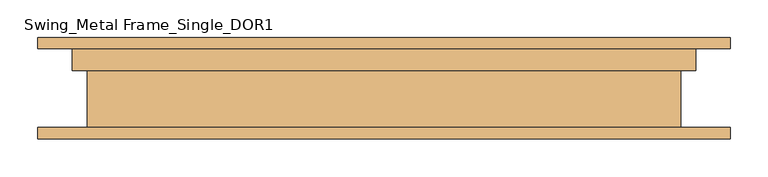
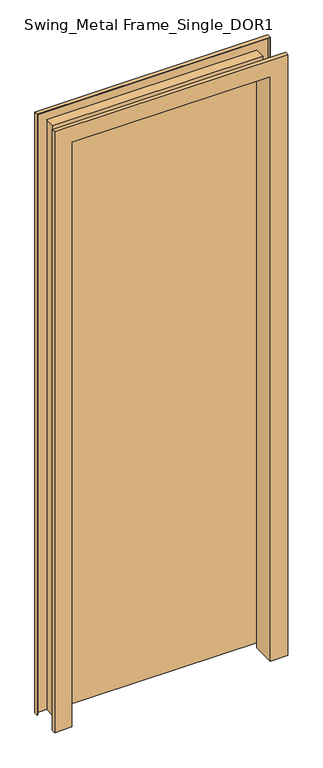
"""IFC4 building model written with IfcOpenShell, lengths in millimetres: door geometry, Swing_Metal Frame_Single_DOR1 : 2040h x 820 (2110x920 STUD)."""

import ifcopenshell
import ifcopenshell.guid

model = None  # the IFC model being written
_history = None  # IfcOwnerHistory: only IFC2X3 demands one
_inside = {}  # id of a spatial element -> (the spatial element, [elements in it])
_under = {}  # id of a project, library or spatial element -> (it, [spatial elements below it])
_declared = {}  # id of a project -> (the project, [libraries it declares])
_typed = {}  # id of a type object -> (the type object, [elements of that type])
_made_of = {}  # id of a material, layer set ... -> (it, [elements and type objects made of it])


def new_model(schema):
    """Start an empty IFC model of exactly this schema.

    Asked for "IFC4X3", IfcOpenShell would pick the latest addendum, in which some entities
    have other attributes; the version numbers below select the first issue.
    IFC2X3 requires an IfcOwnerHistory on every rooted entity: one is made here for all.
    """
    global model, _history
    if schema == "IFC4X3":
        model = ifcopenshell.file(schema_version=(4, 3, 0, 0))
    else:
        model = ifcopenshell.file(schema=schema)
    _inside.clear()
    _under.clear()
    _declared.clear()
    _typed.clear()
    _made_of.clear()
    _history = None
    if model.schema == "IFC2X3":
        org = make("IfcOrganization", Name="unknown")
        user = make(
            "IfcPersonAndOrganization",
            ThePerson=make("IfcPerson", FamilyName="unknown"),
            TheOrganization=org,
        )
        app = make(
            "IfcApplication",
            ApplicationDeveloper=org,
            Version="unknown",
            ApplicationFullName="unknown",
            ApplicationIdentifier="unknown",
        )
        _history = make(
            "IfcOwnerHistory",
            OwningUser=user,
            OwningApplication=app,
            ChangeAction="ADDED",
            CreationDate=0,
        )
    return model


def make(cls, **values):
    """One entity of the class cls with the attributes given. An attribute that is None is left unset."""
    return model.create_entity(
        cls, **{name: value for name, value in values.items() if value is not None}
    )


def rooted(cls, **values):
    """An entity with a GlobalId (a new one), such as an element, a storey or a relation."""
    return make(cls, GlobalId=ifcopenshell.guid.new(), OwnerHistory=_history, **values)


def si_unit(unit_type, name, prefix=None):
    """IfcSIUnit, for example si_unit("LENGTHUNIT", "METRE", prefix="MILLI")."""
    return make("IfcSIUnit", UnitType=unit_type, Prefix=prefix, Name=name)


def assignment(units):
    """IfcUnitAssignment: the units of a project."""
    return None if units is None else make("IfcUnitAssignment", Units=units)


def point(xyz):
    """IfcCartesianPoint."""
    return None if xyz is None else make("IfcCartesianPoint", Coordinates=xyz)


def direction(xyz):
    """IfcDirection."""
    return None if xyz is None else make("IfcDirection", DirectionRatios=xyz)


def frame(location, z_axis=None, x_axis=None):
    """IfcAxis2Placement3D, a coordinate frame: its origin and axes. An axis left out is left unset."""
    return make(
        "IfcAxis2Placement3D",
        Location=point(location),
        Axis=direction(z_axis),
        RefDirection=direction(x_axis),
    )


def origin():
    """The frame at (0, 0, 0) with its axes left unset."""
    return frame((0.0, 0.0, 0.0))


def place(relative_to, where):
    """IfcLocalPlacement: puts the frame where relative to a parent placement (None: the world)."""
    return make(
        "IfcLocalPlacement", PlacementRelTo=relative_to, RelativePlacement=where
    )


def context(
    kind, dimensions, precision=None, world=None, true_north=None, identifier=None
):
    """IfcGeometricRepresentationContext, for example the 3D "Model" context."""
    return make(
        "IfcGeometricRepresentationContext",
        ContextIdentifier=identifier,
        ContextType=kind,
        CoordinateSpaceDimension=dimensions,
        Precision=precision,
        WorldCoordinateSystem=world,
        TrueNorth=true_north,
    )


def project(units=None, contexts=None):
    """IfcProject with its units and contexts."""
    return rooted(
        "IfcProject",
        Name="project",
        RepresentationContexts=contexts,
        UnitsInContext=assignment(units),
    )


def spatial(cls, under=None, at=None, **own):
    """A site, building, storey or space (cls), placed at a placement, below another one or the project."""
    s = rooted(cls, ObjectPlacement=at, **own)
    if under is not None:
        _under.setdefault(under.id(), (under, []))[1].append(s)
    return s


def polyline(points):
    """IfcPolyline through the points."""
    return make("IfcPolyline", Points=[point(p) for p in points])


def outline(outer, holes=None, kind="AREA"):
    """IfcArbitraryClosedProfileDef: a profile drawn as a closed curve; with holes, ...WithVoids."""
    if holes is None:
        return make("IfcArbitraryClosedProfileDef", ProfileType=kind, OuterCurve=outer)
    return make(
        "IfcArbitraryProfileDefWithVoids",
        ProfileType=kind,
        OuterCurve=outer,
        InnerCurves=holes,
    )


def extrude(swept, where, along, depth):
    """IfcExtrudedAreaSolid: the profile swept, set in the frame where, extruded along a direction by depth."""
    return make(
        "IfcExtrudedAreaSolid",
        SweptArea=swept,
        Position=where,
        ExtrudedDirection=direction(along),
        Depth=depth,
    )


def faces_of(points, faces, orient=None, outer=None):
    """IfcFace entities. A face is a list of loops; a loop is a list of indices into points, from 0.

    orient and outer hold one flag for each loop. By default every Orientation is true, the
    first loop of a face is its IfcFaceOuterBound and the others are IfcFaceBound.
    """
    made = []
    for i, loops in enumerate(faces):
        bounds = []
        for j, loop in enumerate(loops):
            is_outer = j == 0 if outer is None else outer[i][j]
            bounds.append(
                make(
                    "IfcFaceOuterBound" if is_outer else "IfcFaceBound",
                    Bound=make("IfcPolyLoop", Polygon=[points[k] for k in loop]),
                    Orientation=True if orient is None else orient[i][j],
                )
            )
        made.append(make("IfcFace", Bounds=bounds))
    return made


def faceted_brep(points, faces, orient=None, outer=None, voids=None):
    """IfcFacetedBrep: a solid bounded by flat faces; with voids (closed shells), ...WithVoids."""
    shared = [point(p) for p in points]
    hull = make("IfcClosedShell", CfsFaces=faces_of(shared, faces, orient, outer))
    if voids is None:
        return make("IfcFacetedBrep", Outer=hull)
    return make(
        "IfcFacetedBrepWithVoids",
        Outer=hull,
        Voids=[
            make(cls, CfsFaces=faces_of(shared, fs, o, b)) for cls, fs, o, b in voids
        ],
    )


def shape(context_of_items, identifier, shape_type, items):
    """IfcShapeRepresentation: the items that make up one representation, for example the "Body"."""
    return make(
        "IfcShapeRepresentation",
        ContextOfItems=context_of_items,
        RepresentationIdentifier=identifier,
        RepresentationType=shape_type,
        Items=items,
    )


def source(mapping_origin, context_of_items, identifier, shape_type, items):
    """IfcRepresentationMap: a shape defined once, which mapped items show again and again."""
    return make(
        "IfcRepresentationMap",
        MappingOrigin=mapping_origin,
        MappedRepresentation=shape(context_of_items, identifier, shape_type, items),
    )


def transform(
    local_origin,
    x_axis=None,
    y_axis=None,
    z_axis=None,
    scale=None,
    scale2=None,
    scale3=None,
    uniform=True,
):
    """IfcCartesianTransformationOperator3D, or its non-uniform kind. x_axis, y_axis, z_axis: its Axis1, 2, 3."""
    if uniform:
        return make(
            "IfcCartesianTransformationOperator3D",
            Axis1=direction(x_axis),
            Axis2=direction(y_axis),
            LocalOrigin=point(local_origin),
            Scale=scale,
            Axis3=direction(z_axis),
        )
    return make(
        "IfcCartesianTransformationOperator3DnonUniform",
        Axis1=direction(x_axis),
        Axis2=direction(y_axis),
        LocalOrigin=point(local_origin),
        Scale=scale,
        Axis3=direction(z_axis),
        Scale2=scale2,
        Scale3=scale3,
    )


def mapped(mapping_source, mapping_target):
    """IfcMappedItem: shows the shape of a source again, moved by a transform."""
    return make(
        "IfcMappedItem", MappingSource=mapping_source, MappingTarget=mapping_target
    )


def made_of(thing, what):
    """Note that an element or type object is made of a material, layer set ...; save() writes the relation."""
    if what is not None:
        _made_of.setdefault(what.id(), (what, []))[1].append(thing)
    return thing


def element(
    cls,
    number,
    at=None,
    inside=None,
    cuts=None,
    type_object=None,
    material=None,
    context=None,
    identifier="Body",
    shape_type=None,
    held_by="IfcProductDefinitionShape",
    body=None,
    shapes=None,
    **own,
):
    """One element of the class cls, such as IfcWall. Its Tag is "e" and its number.

    at: its placement. inside: the storey or other place that contains it. cuts: it is an
    opening in that element (IfcRelVoidsElement). A single representation is given by context,
    identifier, shape_type and body (its items); several are given by shapes. held_by: the class
    of the entity that holds the representations. save() writes the other relations.
    """
    e = rooted(cls, Tag="e%d" % number, ObjectPlacement=at, **own)
    if body is not None:
        shapes = [shape(context, identifier, shape_type, body)]
    if shapes is not None:
        e.Representation = make(held_by, Representations=shapes)
    if inside is not None:
        _inside.setdefault(inside.id(), (inside, []))[1].append(e)
    if cuts is not None:
        rooted(
            "IfcRelVoidsElement", RelatingBuildingElement=cuts, RelatedOpeningElement=e
        )
    if type_object is not None:
        _typed.setdefault(type_object.id(), (type_object, []))[1].append(e)
    return made_of(e, material)


def aggregate(whole, parts):
    """IfcRelAggregates: a whole, such as a stair, and the parts it consists of."""
    return rooted("IfcRelAggregates", RelatingObject=whole, RelatedObjects=parts)


def save(model, path):
    """Write the relations noted so far, then the file.

    IfcRelAggregates (storeys below a building ...), IfcRelContainedInSpatialStructure (elements
    in a storey), IfcRelDefinesByType, IfcRelAssociatesMaterial and IfcRelDeclares: one each for
    every whole, place, type object, material and project.
    """
    for whole, parts in _under.values():
        aggregate(whole, parts)
    for where, things in _inside.values():
        rooted(
            "IfcRelContainedInSpatialStructure",
            RelatedElements=things,
            RelatingStructure=where,
        )
    for kind, things in _typed.values():
        rooted("IfcRelDefinesByType", RelatedObjects=things, RelatingType=kind)
    for what, things in _made_of.values():
        rooted("IfcRelAssociatesMaterial", RelatedObjects=things, RelatingMaterial=what)
    for by, libraries in _declared.values():
        rooted("IfcRelDeclares", RelatingContext=by, RelatedDefinitions=libraries)
    model.write(path)


def swing_metal_frame_single_dor1_9c4c5c1d(model_context):
    return source(origin(), model_context, "Body", "SolidModel", [
        extrude(outline(polyline([(410.0, 67.5), (410.0, 27.5), (-410.0, 27.5), (-410.0, 67.5), (410.0, 67.5)])), frame((0.0, 0.0, 20.0), z_axis=(0.0, 0.0, 1.0), x_axis=(1.0, 0.0, 0.0)), (0.0, 0.0, 1.0), 2440.0),
        faceted_brep([(-460.0, -67.5, 0.0), (-460.0, -52.5, 0.0), (-458.0, -52.5, 0.0), (-458.0, -65.5, 0.0), (-394.0, -65.5, 0.0), (-394.0, 23.5, 0.0), (-414.0, 23.5, 0.0), (-414.0, 65.5, 0.0), (-458.0, 65.5, 0.0), (-458.0, 52.5, 0.0), (-460.0, 52.5, 0.0), (-460.0, 67.5, 0.0), (-412.0, 67.5, 0.0), (-412.0, 25.5, 0.0), (-392.0, 25.5, 0.0), (-392.0, -67.5, 0.0), (-460.0, -67.5, 2510.0), (-460.0, -52.5, 2510.0), (460.0, -52.5, 2510.0), (460.0, -52.5, 0.0), (458.0, -52.5, 0.0), (458.0, -52.5, 2508.0), (-458.0, -52.5, 2508.0), (-458.0, -65.5, 2508.0), (458.0, -65.5, 2508.0), (458.0, -65.5, 0.0), (394.0, -65.5, 0.0), (394.0, -65.5, 2444.0), (-394.0, -65.5, 2444.0), (-394.0, 23.5, 2444.0), (394.0, 23.5, 2444.0), (394.0, 23.5, 0.0), (414.0, 23.5, 0.0), (414.0, 23.5, 2464.0), (-414.0, 23.5, 2464.0), (-414.0, 65.5, 2464.0), (414.0, 65.5, 2464.0), (414.0, 65.5, 0.0), (458.0, 65.5, 0.0), (458.0, 65.5, 2508.0), (-458.0, 65.5, 2508.0), (-458.0, 52.5, 2508.0), (458.0, 52.5, 2508.0), (458.0, 52.5, 0.0), (460.0, 52.5, 0.0), (460.0, 52.5, 2510.0), (-460.0, 52.5, 2510.0), (-460.0, 67.5, 2510.0), (460.0, 67.5, 2510.0), (460.0, 67.5, 0.0), (412.0, 67.5, 0.0), (412.0, 67.5, 2462.0), (-412.0, 67.5, 2462.0), (-412.0, 25.5, 2462.0), (412.0, 25.5, 2462.0), (412.0, 25.5, 0.0), (392.0, 25.5, 0.0), (392.0, 25.5, 2442.0), (-392.0, 25.5, 2442.0), (-392.0, -67.5, 2442.0), (392.0, -67.5, 2442.0), (392.0, -67.5, 0.0), (460.0, -67.5, 0.0), (460.0, -67.5, 2510.0)], [[[0, 1, 2, 3, 4, 5, 6, 7, 8, 9, 10, 11, 12, 13, 14, 15]], [[1, 0, 16, 17]], [[2, 1, 17, 18, 19, 20, 21, 22]], [[3, 2, 22, 23]], [[4, 3, 23, 24, 25, 26, 27, 28]], [[5, 4, 28, 29]], [[6, 5, 29, 30, 31, 32, 33, 34]], [[7, 6, 34, 35]], [[8, 7, 35, 36, 37, 38, 39, 40]], [[9, 8, 40, 41]], [[10, 9, 41, 42, 43, 44, 45, 46]], [[11, 10, 46, 47]], [[12, 11, 47, 48, 49, 50, 51, 52]], [[13, 12, 52, 53]], [[14, 13, 53, 54, 55, 56, 57, 58]], [[15, 14, 58, 59]], [[0, 15, 59, 60, 61, 62, 63, 16]], [[18, 63, 62, 19]], [[62, 61, 56, 55, 50, 49, 44, 43, 38, 37, 32, 31, 26, 25, 20, 19]], [[24, 21, 20, 25]], [[30, 27, 26, 31]], [[36, 33, 32, 37]], [[42, 39, 38, 43]], [[48, 45, 44, 49]], [[54, 51, 50, 55]], [[60, 57, 56, 61]], [[17, 16, 63, 18]], [[23, 22, 21, 24]], [[29, 28, 27, 30]], [[35, 34, 33, 36]], [[41, 40, 39, 42]], [[47, 46, 45, 48]], [[53, 52, 51, 54]], [[59, 58, 57, 60]]]),
    ])


if __name__ == "__main__":
    model = new_model("IFC4")
    model_context = context("Model", 3, world=origin())
    ifc_project = project(units=[si_unit("LENGTHUNIT", "METRE", prefix="MILLI")], contexts=[model_context])
    site = spatial("IfcSite", under=ifc_project)
    building = spatial("IfcBuilding", under=site)
    placement = place(None, origin())
    swing_metal_frame_single_dor1_shape = swing_metal_frame_single_dor1_9c4c5c1d(model_context)
    element("IfcDoor", 1, ObjectType="Swing_Metal Frame_Single_DOR1 : 2040h x 820 (2110x920 STUD)", at=placement, inside=building, context=model_context, shape_type="MappedRepresentation", body=[
        mapped(swing_metal_frame_single_dor1_shape, transform((0.0, 0.0, 0.0), x_axis=(1.0, 0.0, 0.0), y_axis=(0.0, 1.0, 0.0), z_axis=(0.0, 0.0, 1.0))),
    ])
    save(model, "model.ifc")
